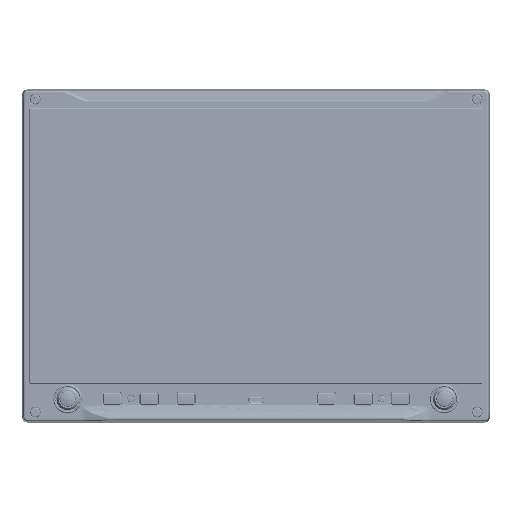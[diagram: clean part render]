
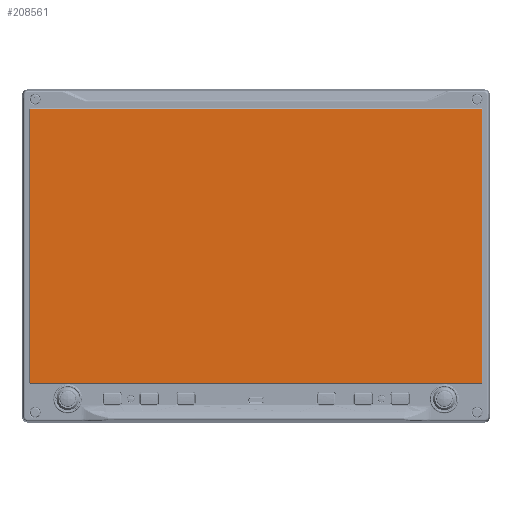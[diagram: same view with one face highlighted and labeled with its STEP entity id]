
A CAD part, top view. The second image highlights one B-rep face of the part: STEP entity #208561.
In plain terms, the highlighted planar face has unit normal (0, 0, 1).
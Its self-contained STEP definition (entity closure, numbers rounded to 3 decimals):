
#706 = EDGE_LOOP ( 'NONE', ( #362053, #126839, #169625, #93293, #419089, #31022, #77369, #316298 ) ) ;
#2884 = EDGE_CURVE ( 'NONE', #439411, #176401, #300907, .T. ) ;
#7460 = DIRECTION ( 'NONE',  ( 0., -1., 0. ) ) ;
#7506 = DIRECTION ( 'NONE',  ( 1., 0., 0. ) ) ;
#10121 = DIRECTION ( 'NONE',  ( 1., 0., 0. ) ) ;
#11800 = DIRECTION ( 'NONE',  ( 1., 0., 0. ) ) ;
#19368 = VERTEX_POINT ( 'NONE', #356666 ) ;
#22014 = LINE ( 'NONE', #380189, #433823 ) ;
#28437 = CIRCLE ( 'NONE', #290731, 0.6 ) ;
#31022 = ORIENTED_EDGE ( 'NONE', *, *, #440756, .T. ) ;
#31741 = CARTESIAN_POINT ( 'NONE',  ( -135.05, 87.39, 17. ) ) ;
#33343 = CIRCLE ( 'NONE', #266565, 0.6 ) ;
#73648 = LINE ( 'NONE', #253892, #178554 ) ;
#77369 = ORIENTED_EDGE ( 'NONE', *, *, #113915, .T. ) ;
#90221 = DIRECTION ( 'NONE',  ( 1., 0., 0. ) ) ;
#93293 = ORIENTED_EDGE ( 'NONE', *, *, #389839, .T. ) ;
#95412 = CARTESIAN_POINT ( 'NONE',  ( 134.45, -76.11, 17. ) ) ;
#99950 = EDGE_CURVE ( 'NONE', #107243, #404873, #73648, .T. ) ;
#102261 = DIRECTION ( 'NONE',  ( -1., 0., 0. ) ) ;
#107243 = VERTEX_POINT ( 'NONE', #31741 ) ;
#112580 = VECTOR ( 'NONE', #11800, 1000. ) ;
#113915 = EDGE_CURVE ( 'NONE', #186603, #107243, #33343, .T. ) ;
#119313 = VERTEX_POINT ( 'NONE', #121695 ) ;
#121695 = CARTESIAN_POINT ( 'NONE',  ( 134.45, 87.99, 17. ) ) ;
#124924 = FACE_OUTER_BOUND ( 'NONE', #706, .T. ) ;
#126839 = ORIENTED_EDGE ( 'NONE', *, *, #2884, .T. ) ;
#131649 = PLANE ( 'NONE',  #237423 ) ;
#138512 = DIRECTION ( 'NONE',  ( 1., 0., 0. ) ) ;
#151958 = VECTOR ( 'NONE', #102261, 1000. ) ;
#169625 = ORIENTED_EDGE ( 'NONE', *, *, #264824, .T. ) ;
#176401 = VERTEX_POINT ( 'NONE', #423520 ) ;
#178554 = VECTOR ( 'NONE', #7460, 1000. ) ;
#186603 = VERTEX_POINT ( 'NONE', #276908 ) ;
#195646 = DIRECTION ( 'NONE',  ( 0., 0., 1. ) ) ;
#208561 = ADVANCED_FACE ( 'NONE', ( #124924 ), #131649, .T. ) ;
#213971 = LINE ( 'NONE', #250475, #151958 ) ;
#237423 = AXIS2_PLACEMENT_3D ( 'NONE', #339365, #195646, #403361 ) ;
#246210 = AXIS2_PLACEMENT_3D ( 'NONE', #263681, #402942, #90221 ) ;
#250475 = CARTESIAN_POINT ( 'NONE',  ( -134.45, 87.99, 17. ) ) ;
#251678 = CARTESIAN_POINT ( 'NONE',  ( -134.45, 87.39, 17. ) ) ;
#253892 = CARTESIAN_POINT ( 'NONE',  ( -135.05, -75.51, 17. ) ) ;
#256574 = VERTEX_POINT ( 'NONE', #423721 ) ;
#260932 = EDGE_CURVE ( 'NONE', #256574, #119313, #375604, .T. ) ;
#263681 = CARTESIAN_POINT ( 'NONE',  ( 134.45, -75.51, 17. ) ) ;
#264824 = EDGE_CURVE ( 'NONE', #176401, #19368, #443065, .T. ) ;
#266565 = AXIS2_PLACEMENT_3D ( 'NONE', #251678, #431955, #7506 ) ;
#266587 = CARTESIAN_POINT ( 'NONE',  ( -134.45, -76.11, 17. ) ) ;
#276908 = CARTESIAN_POINT ( 'NONE',  ( -134.45, 87.99, 17. ) ) ;
#281810 = CARTESIAN_POINT ( 'NONE',  ( 134.45, 87.39, 17. ) ) ;
#290731 = AXIS2_PLACEMENT_3D ( 'NONE', #419225, #307468, #138512 ) ;
#300907 = LINE ( 'NONE', #95412, #112580 ) ;
#304951 = DIRECTION ( 'NONE',  ( 0., 1., 0. ) ) ;
#307468 = DIRECTION ( 'NONE',  ( 0., 0., 1. ) ) ;
#316298 = ORIENTED_EDGE ( 'NONE', *, *, #99950, .T. ) ;
#322787 = DIRECTION ( 'NONE',  ( 0., 0., 1. ) ) ;
#339365 = CARTESIAN_POINT ( 'NONE',  ( 1.44, 4.23, 17. ) ) ;
#355368 = CARTESIAN_POINT ( 'NONE',  ( -135.05, -75.51, 17. ) ) ;
#356666 = CARTESIAN_POINT ( 'NONE',  ( 135.05, -75.51, 17. ) ) ;
#362053 = ORIENTED_EDGE ( 'NONE', *, *, #442145, .T. ) ;
#375604 = CIRCLE ( 'NONE', #448626, 0.6 ) ;
#380189 = CARTESIAN_POINT ( 'NONE',  ( 135.05, 87.39, 17. ) ) ;
#389839 = EDGE_CURVE ( 'NONE', #19368, #256574, #22014, .T. ) ;
#402942 = DIRECTION ( 'NONE',  ( 0., 0., 1. ) ) ;
#403361 = DIRECTION ( 'NONE',  ( 1., 0., 0. ) ) ;
#404873 = VERTEX_POINT ( 'NONE', #355368 ) ;
#419089 = ORIENTED_EDGE ( 'NONE', *, *, #260932, .T. ) ;
#419225 = CARTESIAN_POINT ( 'NONE',  ( -134.45, -75.51, 17. ) ) ;
#423520 = CARTESIAN_POINT ( 'NONE',  ( 134.45, -76.11, 17. ) ) ;
#423721 = CARTESIAN_POINT ( 'NONE',  ( 135.05, 87.39, 17. ) ) ;
#431955 = DIRECTION ( 'NONE',  ( 0., 0., 1. ) ) ;
#433823 = VECTOR ( 'NONE', #304951, 1000. ) ;
#439411 = VERTEX_POINT ( 'NONE', #266587 ) ;
#440756 = EDGE_CURVE ( 'NONE', #119313, #186603, #213971, .T. ) ;
#442145 = EDGE_CURVE ( 'NONE', #404873, #439411, #28437, .T. ) ;
#443065 = CIRCLE ( 'NONE', #246210, 0.6 ) ;
#448626 = AXIS2_PLACEMENT_3D ( 'NONE', #281810, #322787, #10121 ) ;
